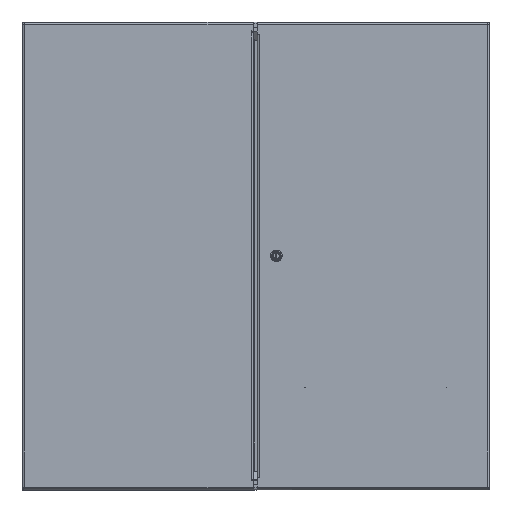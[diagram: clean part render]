
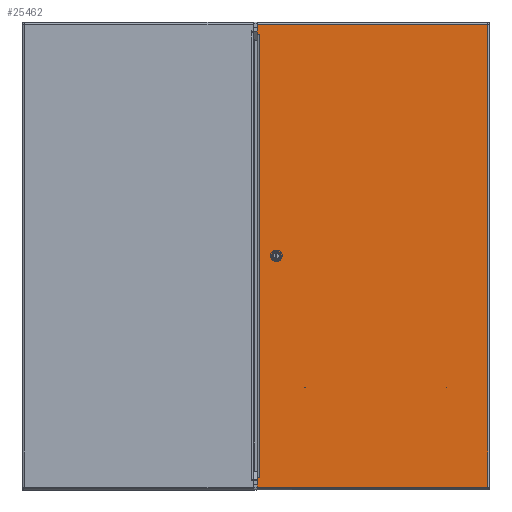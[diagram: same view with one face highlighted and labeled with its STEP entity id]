
A CAD part, top view. The second image highlights one B-rep face of the part: STEP entity #25462.
In plain terms, the highlighted planar face has unit normal (0, 0, 1).
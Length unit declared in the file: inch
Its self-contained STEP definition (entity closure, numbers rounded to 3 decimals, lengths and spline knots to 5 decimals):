
#10846 = AXIS2_PLACEMENT_3D ( 'NONE', #56549, #56554, #56555 ) ;
#13889 = AXIS2_PLACEMENT_3D ( 'NONE', #41333, #41360, #41362 ) ;
#13982 = AXIS2_PLACEMENT_3D ( 'NONE', #43561, #43576, #43578 ) ;
#13988 = AXIS2_PLACEMENT_3D ( 'NONE', #43604, #43606, #43608 ) ;
#13991 = AXIS2_PLACEMENT_3D ( 'NONE', #43588, #43600, #43602 ) ;
#21494 = FACE_BOUND ( 'NONE', #47283, .T. ) ;
#21499 = FACE_OUTER_BOUND ( 'NONE', #47274, .T. ) ;
#25462 = ADVANCED_FACE ( 'NONE', ( #21494, #21499 ), #56548, .T. ) ;
#32716 = CARTESIAN_POINT ( 'NONE',  ( 10.264, -20.7549, 0.072 ) ) ;
#32720 = CARTESIAN_POINT ( 'NONE',  ( 10.264, 20.7549, 0.072 ) ) ;
#33008 = CARTESIAN_POINT ( 'NONE',  ( 10.259, 20.76, 0.072 ) ) ;
#33010 = CARTESIAN_POINT ( 'NONE',  ( 10.264, -20.755, 0.072 ) ) ;
#33011 = CARTESIAN_POINT ( 'NONE',  ( -10.416, -20.76, 0.072 ) ) ;
#33012 = CARTESIAN_POINT ( 'NONE',  ( -10.416, -19.912, 0.072 ) ) ;
#33014 = CARTESIAN_POINT ( 'NONE',  ( -10.264, -19.912, 0.072 ) ) ;
#33016 = CARTESIAN_POINT ( 'NONE',  ( -10.264, 19.912, 0.072 ) ) ;
#33017 = CARTESIAN_POINT ( 'NONE',  ( -10.416, 19.912, 0.072 ) ) ;
#33019 = CARTESIAN_POINT ( 'NONE',  ( 10.2589, 20.76, 0.072 ) ) ;
#33020 = CARTESIAN_POINT ( 'NONE',  ( -10.416, 20.76, 0.072 ) ) ;
#33022 = CARTESIAN_POINT ( 'NONE',  ( 10.259, -20.76, 0.072 ) ) ;
#33025 = CARTESIAN_POINT ( 'NONE',  ( 10.2589, -20.76, 0.072 ) ) ;
#33028 = CARTESIAN_POINT ( 'NONE',  ( 10.264, 20.755, 0.072 ) ) ;
#33537 = CARTESIAN_POINT ( 'NONE',  ( -9.161, 0., 0.072 ) ) ;
#33538 = CARTESIAN_POINT ( 'NONE',  ( -8.271, 0., 0.072 ) ) ;
#36973 = EDGE_CURVE ( 'NONE', #83450, #83451, #40302, .T. ) ;
#37178 = EDGE_CURVE ( 'NONE', #82598, #82606, #40559, .T. ) ;
#37305 = EDGE_CURVE ( 'NONE', #82930, #82933, #40750, .T. ) ;
#37309 = EDGE_CURVE ( 'NONE', #82941, #82606, #40761, .T. ) ;
#37310 = EDGE_CURVE ( 'NONE', #82930, #82929, #40763, .T. ) ;
#37313 = EDGE_CURVE ( 'NONE', #82935, #82938, #40756, .T. ) ;
#37314 = EDGE_CURVE ( 'NONE', #82927, #82925, #40771, .T. ) ;
#37315 = EDGE_CURVE ( 'NONE', #82929, #82927, #40773, .T. ) ;
#37316 = EDGE_CURVE ( 'NONE', #83451, #83450, #40777, .T. ) ;
#37317 = EDGE_CURVE ( 'NONE', #82933, #82932, #40760, .T. ) ;
#37318 = EDGE_CURVE ( 'NONE', #82924, #82925, #40776, .T. ) ;
#37319 = EDGE_CURVE ( 'NONE', #82924, #82938, #40770, .T. ) ;
#37321 = EDGE_CURVE ( 'NONE', #82923, #82935, #40784, .T. ) ;
#37322 = EDGE_CURVE ( 'NONE', #82921, #82941, #40786, .T. ) ;
#37323 = EDGE_CURVE ( 'NONE', #82598, #82923, #40785, .T. ) ;
#37325 = EDGE_CURVE ( 'NONE', #82932, #82921, #40789, .T. ) ;
#40302 = CIRCLE ( 'NONE', #13889, 0.445 ) ;
#40541 = VECTOR ( 'NONE', #42766, 39.37008 ) ;
#40559 = LINE ( 'NONE', #42747, #40541 ) ;
#40748 = VECTOR ( 'NONE', #43526, 39.37008 ) ;
#40750 = LINE ( 'NONE', #43524, #40748 ) ;
#40756 = LINE ( 'NONE', #43537, #40769 ) ;
#40758 = VECTOR ( 'NONE', #43582, 39.37008 ) ;
#40760 = LINE ( 'NONE', #43580, #40758 ) ;
#40761 = LINE ( 'NONE', #43542, #40762 ) ;
#40762 = VECTOR ( 'NONE', #43544, 39.37008 ) ;
#40763 = LINE ( 'NONE', #43547, #40764 ) ;
#40764 = VECTOR ( 'NONE', #43549, 39.37008 ) ;
#40769 = VECTOR ( 'NONE', #43563, 39.37008 ) ;
#40770 = LINE ( 'NONE', #43584, #40780 ) ;
#40771 = LINE ( 'NONE', #43566, #40772 ) ;
#40772 = VECTOR ( 'NONE', #43568, 39.37008 ) ;
#40773 = LINE ( 'NONE', #43570, #40774 ) ;
#40774 = VECTOR ( 'NONE', #43572, 39.37008 ) ;
#40776 = LINE ( 'NONE', #43555, #40778 ) ;
#40777 = CIRCLE ( 'NONE', #13982, 0.445 ) ;
#40778 = VECTOR ( 'NONE', #43587, 39.37008 ) ;
#40780 = VECTOR ( 'NONE', #43591, 39.37008 ) ;
#40783 = VECTOR ( 'NONE', #43613, 39.37008 ) ;
#40784 = CIRCLE ( 'NONE', #13991, 0.005 ) ;
#40785 = LINE ( 'NONE', #43598, #40783 ) ;
#40786 = CIRCLE ( 'NONE', #13988, 0.005 ) ;
#40789 = LINE ( 'NONE', #43620, #40790 ) ;
#40790 = VECTOR ( 'NONE', #43622, 39.37008 ) ;
#41333 = CARTESIAN_POINT ( 'NONE',  ( -8.716, 0., 0.072 ) ) ;
#41360 = DIRECTION ( 'NONE',  ( 0., 0., 1. ) ) ;
#41362 = DIRECTION ( 'NONE',  ( 1., 0., 0. ) ) ;
#42747 = CARTESIAN_POINT ( 'NONE',  ( 10.264, -20.7549, 0.072 ) ) ;
#42766 = DIRECTION ( 'NONE',  ( 0., 1., 0. ) ) ;
#43524 = CARTESIAN_POINT ( 'NONE',  ( -10.416, -20.912, 0.072 ) ) ;
#43526 = DIRECTION ( 'NONE',  ( 0., 1., 0. ) ) ;
#43537 = CARTESIAN_POINT ( 'NONE',  ( 10.259, -20.76, 0.072 ) ) ;
#43542 = CARTESIAN_POINT ( 'NONE',  ( 10.264, 20.755, 0.072 ) ) ;
#43544 = DIRECTION ( 'NONE',  ( 0., -1., 0. ) ) ;
#43547 = CARTESIAN_POINT ( 'NONE',  ( 10.259, 19.912, 0.072 ) ) ;
#43549 = DIRECTION ( 'NONE',  ( 1., 0., 0. ) ) ;
#43555 = CARTESIAN_POINT ( 'NONE',  ( -10.416, -20.912, 0.072 ) ) ;
#43561 = CARTESIAN_POINT ( 'NONE',  ( -8.716, 0., 0.072 ) ) ;
#43563 = DIRECTION ( 'NONE',  ( -1., 0., 0. ) ) ;
#43566 = CARTESIAN_POINT ( 'NONE',  ( 10.259, -19.912, 0.072 ) ) ;
#43568 = DIRECTION ( 'NONE',  ( -1., 0., 0. ) ) ;
#43570 = CARTESIAN_POINT ( 'NONE',  ( -10.264, 19.912, 0.072 ) ) ;
#43572 = DIRECTION ( 'NONE',  ( 0., -1., 0. ) ) ;
#43576 = DIRECTION ( 'NONE',  ( 0., 0., 1. ) ) ;
#43578 = DIRECTION ( 'NONE',  ( 1., 0., 0. ) ) ;
#43580 = CARTESIAN_POINT ( 'NONE',  ( 10.259, 20.76, 0.072 ) ) ;
#43582 = DIRECTION ( 'NONE',  ( 1., 0., 0. ) ) ;
#43584 = CARTESIAN_POINT ( 'NONE',  ( -10.416, -20.76, 0.072 ) ) ;
#43587 = DIRECTION ( 'NONE',  ( 0., 1., 0. ) ) ;
#43588 = CARTESIAN_POINT ( 'NONE',  ( 10.259, -20.755, 0.072 ) ) ;
#43591 = DIRECTION ( 'NONE',  ( 1., 0., 0. ) ) ;
#43598 = CARTESIAN_POINT ( 'NONE',  ( 10.264, 20.755, 0.072 ) ) ;
#43600 = DIRECTION ( 'NONE',  ( 0., 0., -1. ) ) ;
#43602 = DIRECTION ( 'NONE',  ( -1., 0., 0. ) ) ;
#43604 = CARTESIAN_POINT ( 'NONE',  ( 10.259, 20.755, 0.072 ) ) ;
#43606 = DIRECTION ( 'NONE',  ( 0., 0., -1. ) ) ;
#43608 = DIRECTION ( 'NONE',  ( -1., 0., 0. ) ) ;
#43613 = DIRECTION ( 'NONE',  ( 0., -1., 0. ) ) ;
#43620 = CARTESIAN_POINT ( 'NONE',  ( 10.259, 20.76, 0.072 ) ) ;
#43622 = DIRECTION ( 'NONE',  ( 1., 0., 0. ) ) ;
#44876 = ORIENTED_EDGE ( 'NONE', *, *, #37316, .F. ) ;
#44878 = ORIENTED_EDGE ( 'NONE', *, *, #36973, .F. ) ;
#44880 = ORIENTED_EDGE ( 'NONE', *, *, #37317, .F. ) ;
#44882 = ORIENTED_EDGE ( 'NONE', *, *, #37305, .F. ) ;
#44884 = ORIENTED_EDGE ( 'NONE', *, *, #37310, .T. ) ;
#44885 = ORIENTED_EDGE ( 'NONE', *, *, #37315, .T. ) ;
#44886 = ORIENTED_EDGE ( 'NONE', *, *, #37314, .T. ) ;
#44887 = ORIENTED_EDGE ( 'NONE', *, *, #37318, .F. ) ;
#44888 = ORIENTED_EDGE ( 'NONE', *, *, #37319, .T. ) ;
#44889 = ORIENTED_EDGE ( 'NONE', *, *, #37313, .F. ) ;
#44890 = ORIENTED_EDGE ( 'NONE', *, *, #37321, .F. ) ;
#44891 = ORIENTED_EDGE ( 'NONE', *, *, #37323, .F. ) ;
#44892 = ORIENTED_EDGE ( 'NONE', *, *, #37178, .T. ) ;
#44893 = ORIENTED_EDGE ( 'NONE', *, *, #37309, .F. ) ;
#44894 = ORIENTED_EDGE ( 'NONE', *, *, #37322, .F. ) ;
#44895 = ORIENTED_EDGE ( 'NONE', *, *, #37325, .F. ) ;
#47274 = EDGE_LOOP ( 'NONE', ( #44880, #44882, #44884, #44885, #44886, #44887, #44888, #44889, #44890, #44891, #44892, #44893, #44894, #44895 ) ) ;
#47283 = EDGE_LOOP ( 'NONE', ( #44876, #44878 ) ) ;
#56548 = PLANE ( 'NONE',  #10846 ) ;
#56549 = CARTESIAN_POINT ( 'NONE',  ( 10.259, 20.755, 0.072 ) ) ;
#56554 = DIRECTION ( 'NONE',  ( 0., 0., 1. ) ) ;
#56555 = DIRECTION ( 'NONE',  ( 1., 0., 0. ) ) ;
#82598 = VERTEX_POINT ( 'NONE', #32716 ) ;
#82606 = VERTEX_POINT ( 'NONE', #32720 ) ;
#82921 = VERTEX_POINT ( 'NONE', #33008 ) ;
#82923 = VERTEX_POINT ( 'NONE', #33010 ) ;
#82924 = VERTEX_POINT ( 'NONE', #33011 ) ;
#82925 = VERTEX_POINT ( 'NONE', #33012 ) ;
#82927 = VERTEX_POINT ( 'NONE', #33014 ) ;
#82929 = VERTEX_POINT ( 'NONE', #33016 ) ;
#82930 = VERTEX_POINT ( 'NONE', #33017 ) ;
#82932 = VERTEX_POINT ( 'NONE', #33019 ) ;
#82933 = VERTEX_POINT ( 'NONE', #33020 ) ;
#82935 = VERTEX_POINT ( 'NONE', #33022 ) ;
#82938 = VERTEX_POINT ( 'NONE', #33025 ) ;
#82941 = VERTEX_POINT ( 'NONE', #33028 ) ;
#83450 = VERTEX_POINT ( 'NONE', #33537 ) ;
#83451 = VERTEX_POINT ( 'NONE', #33538 ) ;
